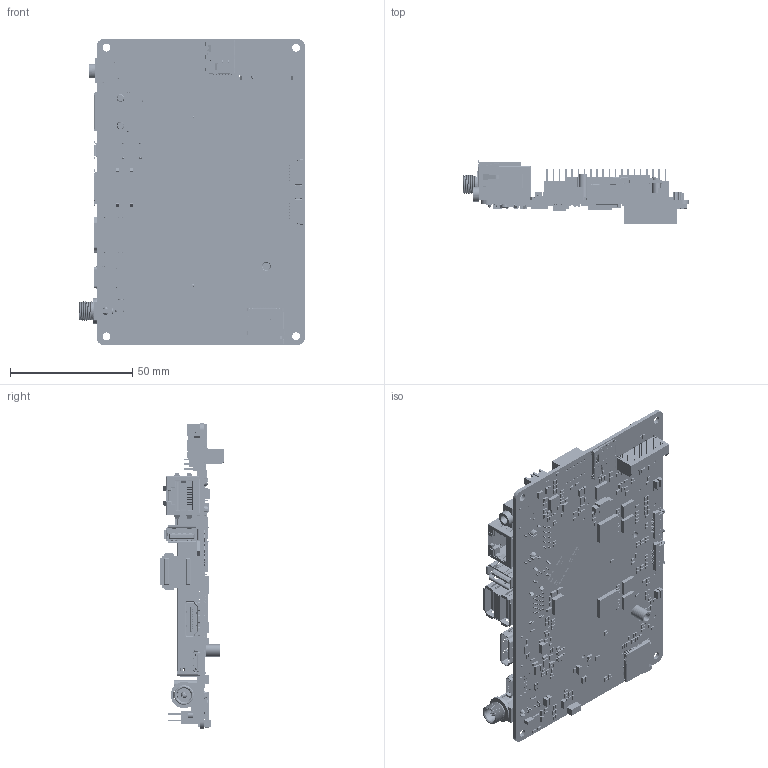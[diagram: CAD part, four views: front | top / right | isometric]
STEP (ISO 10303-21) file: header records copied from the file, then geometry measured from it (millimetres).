
FILE_DESCRIPTION((''),'2;1');
FILE_NAME('WB-EDM-G-IMX8M--MINI-HS06_ASM','2022-08-19T',('gary'),(''),'CREO PARAMETRIC BY PTC INC, 2014350','CREO PARAMETRIC BY PTC INC, 2014350','');
FILE_SCHEMA(('AUTOMOTIVE_DESIGN { 1 0 10303 214 1 1 1 1 }'));
Products named in the file (169): TN252-PCB; 2X1_1_1_2; DCD-020-66M; UT11113-11604-7H-327-0708-X2__1; UT11113-11604-7H-327-0708-X2__2; UT11113-11604-7H-327-0708-X2_1_ASM; AUDIO_PJD-035-47B; PIN_HOLDER_2X20_P254_H78_SMT; METALPAD_LEFTX292SAMPLE-1-SOLID; METALPAD_RIGHTX292SAMPLE-1-SOLI; 18466X3SIMPLE-1-SOLID1; __18466X3SIMPLE-2-SOLID1; JAS6-1-SOLID1; EASB0_ASM; ASAA826-EASB0-XH_ASM; SHHORTPIN_4N_7; SHHORTPIN_4N_6; SHHORTPIN_4N_5; SHHORTPIN_4N_4; SHHORTPIN_4N_3; SHHORTPIN_4N_2; SHHORTPIN_4N_1; SHHORTPIN_4N; SHHORTPIN_4N_8; SHORT_4N_ASM; SHELL_4N; LONGPIN_4N; LONGPIN_4N_1; LONGPIN_4N_2; LONGPIN_4N_3; LONGPIN_4N_4; LONGPIN_4N_5; LONGPIN_4N_6; LONGPIN_4N_7; LONGPIN_4N_8; LONGPIN_4N_9; LONG_4N_ASM; HOUSING_4N; 51U-321N_ASM_1_ASM; PICO_AREA_ASM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
Assembly tree (1327 placements, depth 5):
  WB-EDM-G-IMX8M--MINI-HS06_ASM
    TN252-PCB-ASM_ASM
      TN252-PCB
      2X1_1_1_2
      DCD-020-66M
      UT11113-11604-7H-327-0708-X2_1_ASM
        UT11113-11604-7H-327-0708-X2__1
        UT11113-11604-7H-327-0708-X2__2
      AUDIO_PJD-035-47B
      PIN_HOLDER_2X20_P254_H78_SMT
      ASAA826-EASB0-XH_ASM
        EASB0_ASM
          METALPAD_LEFTX292SAMPLE-1-SOLID
          METALPAD_RIGHTX292SAMPLE-1-SOLI
          18466X3SIMPLE-1-SOLID1
          __18466X3SIMPLE-2-SOLID1
          JAS6-1-SOLID1
      51U-321N_ASM_1_ASM
        SHORT_4N_ASM
          SHHORTPIN_4N_7
          SHHORTPIN_4N_6
          SHHORTPIN_4N_5
          SHHORTPIN_4N_4
          SHHORTPIN_4N_3
          SHHORTPIN_4N_2
          SHHORTPIN_4N_1
          SHHORTPIN_4N
          SHHORTPIN_4N_8
        SHELL_4N
        LONG_4N_ASM
          LONGPIN_4N
          LONGPIN_4N_1
          LONGPIN_4N_2
          LONGPIN_4N_3
          LONGPIN_4N_4
          LONGPIN_4N_5
          LONGPIN_4N_6
          LONGPIN_4N_7
          LONGPIN_4N_8
          LONGPIN_4N_9
        HOUSING_4N
      PICO_AREA_ASM
      CON_125P_2PIN  x2
      LVDS-40PIN-1_1_1_2
      USB-90_
      KRJ-14462-108XX
      MWCSD03S012R_ASM
        MSBR-14
        MSBR-13
        MSBR-12
        MSBR-11
        MSBR-10
        MSBR-9
        MSBR-8
        MSBR-7
        MSBR-6
        MSBR-5
        MSBR-4
        MSBR-3
        MSBR-2
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Bounding box: 92.2 x 26.45 x 125 mm (x, y, z)
Volume: 41001.1 mm3; surface area: 71066.4 mm2
Topology: 1317 solids, 1318 shells, 24914 faces, 85151 edges, 69583 vertices
Faces by surface type: plane 21867, cylinder 2719, bspline 150, cone 99, torus 46, sphere 20, extrusion 9, revolution 4
Entity records: 804906 total; most frequent: CARTESIAN_POINT 117014, DIRECTION 98213, ORIENTED_EDGE 75772, PRESENTATION_STYLE_ASSIGNMENT 59229, STYLED_ITEM 58969, CURVE_STYLE 58902, VECTOR 51703, LINE 51694
